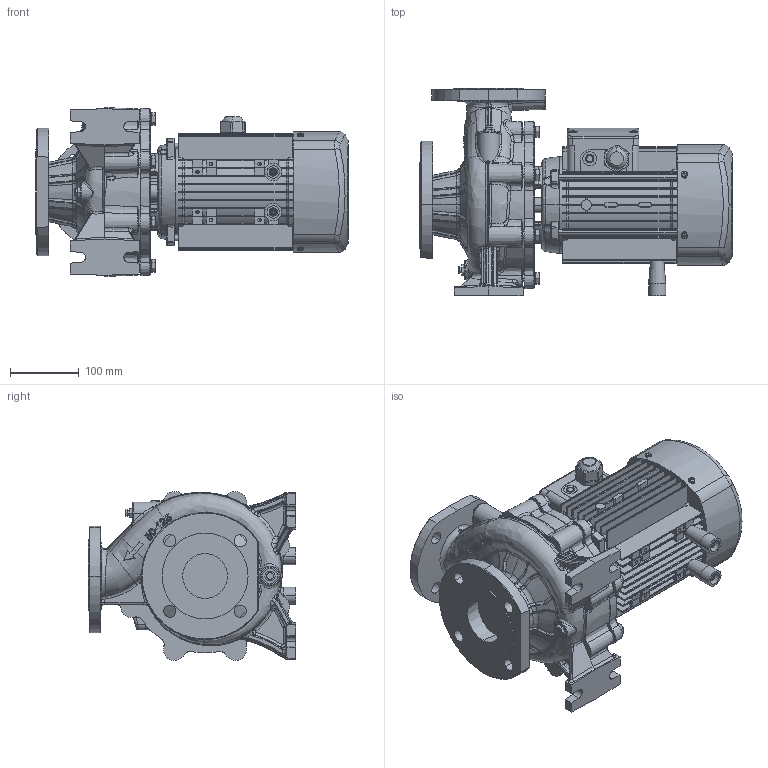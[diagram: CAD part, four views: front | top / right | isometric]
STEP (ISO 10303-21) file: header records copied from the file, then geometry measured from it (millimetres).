
FILE_DESCRIPTION (( 'STEP AP203' ), '1' );
FILE_NAME ('TST50-125-2.2 安装尺寸图.STEP', '2026-04-28T08:53:33', ( '微软用户' ), ( '微软中国' ), 'SwSTEP 2.0', 'SolidWorks 2020', '' );
FILE_SCHEMA (( 'CONFIG_CONTROL_DESIGN' ));
Products named in the file (1): TST50-125-2.2 假蚾喜渡芞
Bounding box: 454 x 302 x 245.78 mm (x, y, z)
Volume: 11246180.2 mm3; surface area: 840772.9 mm2
Topology: 1 solids, 1 shells, 3678 faces, 9171 edges, 5712 vertices
Faces by surface type: plane 1129, cylinder 1018, bspline 979, cone 316, torus 195, sphere 41
Entity records: 151665 total; most frequent: CARTESIAN_POINT 70510, ORIENTED_EDGE 18290, DIRECTION 15273, EDGE_CURVE 9145, AXIS2_PLACEMENT_3D 6197, VERTEX_POINT 5712, EDGE_LOOP 4009, FACE_OUTER_BOUND 3678
